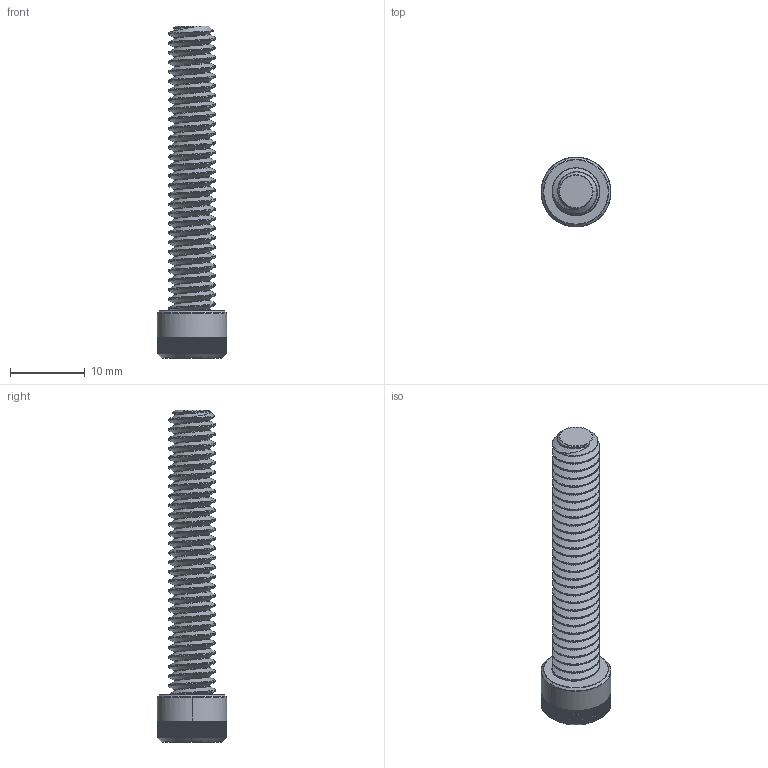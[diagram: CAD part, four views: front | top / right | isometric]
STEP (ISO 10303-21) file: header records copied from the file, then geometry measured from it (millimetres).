
FILE_DESCRIPTION (( 'STEP AP203' ), '1' );
FILE_NAME ('632432.STEP', '2020-04-27T14:57:06', ( '' ), ( '' ), 'SwSTEP 2.0', 'SolidWorks 2016', '' );
FILE_SCHEMA (( 'CONFIG_CONTROL_DESIGN' ));
Length unit declared in the file: inch
Products named in the file (1): 632432
Bounding box: 9.35 x 9.35 x 44.45 mm (x, y, z)
Volume: 1340.5 mm3; surface area: 1505.7 mm2
Topology: 1 solids, 1 shells, 2716 faces, 6541 edges, 3541 vertices
Faces by surface type: bspline 1122, cylinder 799, plane 375, torus 255, sphere 157, cone 8
Entity records: 162795 total; most frequent: CARTESIAN_POINT 109905, ORIENTED_EDGE 12402, DIRECTION 9063, EDGE_CURVE 6201, AXIS2_PLACEMENT_3D 3820, VERTEX_POINT 3489, EDGE_LOOP 2718, ADVANCED_FACE 2716
